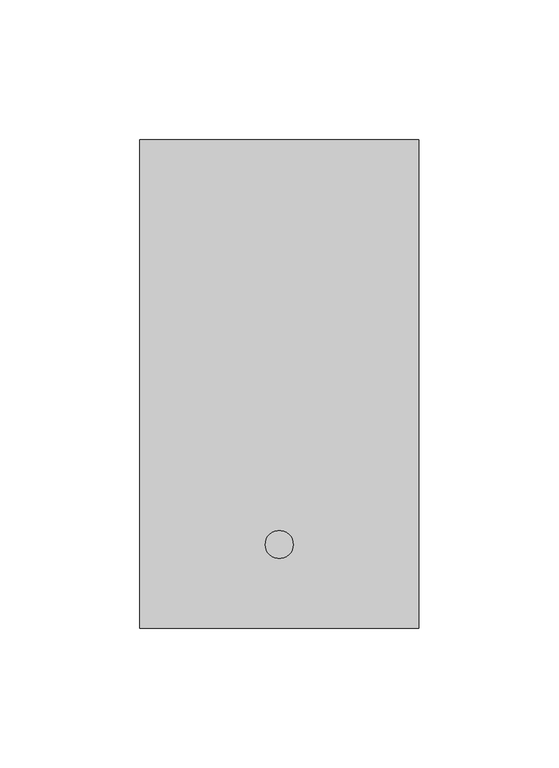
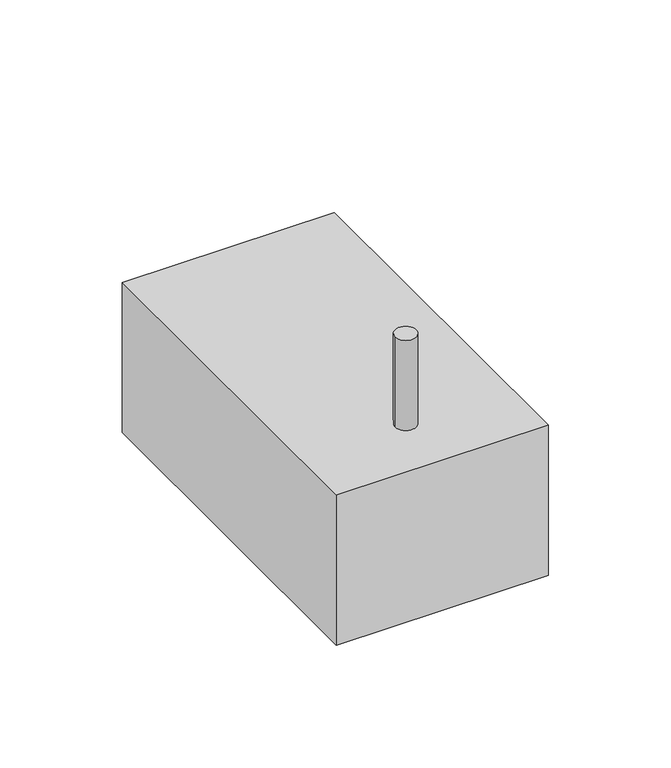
"""IFC4 building model written with IfcOpenShell, lengths in millimetres: furniture geometry, Jabonera : Generico_Pico."""

from ifc_helpers import new_model, si_unit, point, frame, frame_2d, origin, origin_with_axes, place, context, project, spatial, polyline, circle_curve, trimmed, segment, composite_curve, outline, extrude, source, transform, mapped, element, save


def furniture_6e125edc(model_context):
    return source(origin(), model_context, "Body", "SweptSolid", [
        extrude(outline(composite_curve([segment(trimmed(circle_curve(frame_2d((0.0, -57.5)), 5.0), [point((-5.0, -57.5))], [point((5.0, -57.5))], False, "CARTESIAN"), True, "CONTINUOUS"), segment(trimmed(circle_curve(frame_2d((0.0, -57.5)), 5.0), [point((5.0, -57.5))], [point((-5.0, -57.5))], False, "CARTESIAN"), True, "CONTINUOUS")], self_intersect=False)), frame((0.0, 0.0, 75.0), z_axis=(0.0, 0.0, 1.0), x_axis=(1.0, 0.0, 0.0)), (0.0, 0.0, 1.0), 45.0),
        extrude(outline(polyline([(50.0, 87.5), (50.0, -87.5), (-50.0, -87.5), (-50.0, 87.5), (50.0, 87.5)])), origin_with_axes(), (0.0, 0.0, 1.0), 75.0),
    ])


if __name__ == "__main__":
    model = new_model("IFC4")
    model_context = context("Model", 3, world=origin())
    ifc_project = project(units=[si_unit("LENGTHUNIT", "METRE", prefix="MILLI")], contexts=[model_context])
    site = spatial("IfcSite", under=ifc_project)
    building = spatial("IfcBuilding", under=site)
    placement = place(None, origin())
    furniture_shape = furniture_6e125edc(model_context)
    element("IfcFurniture", 1, ObjectType="Jabonera : Generico_Pico", at=placement, inside=building, context=model_context, shape_type="MappedRepresentation", body=[
        mapped(furniture_shape, transform((0.0, 0.0, 0.0), x_axis=(1.0, 0.0, 0.0), y_axis=(0.0, 1.0, 0.0), z_axis=(0.0, 0.0, 1.0))),
    ])
    save(model, "model.ifc")
